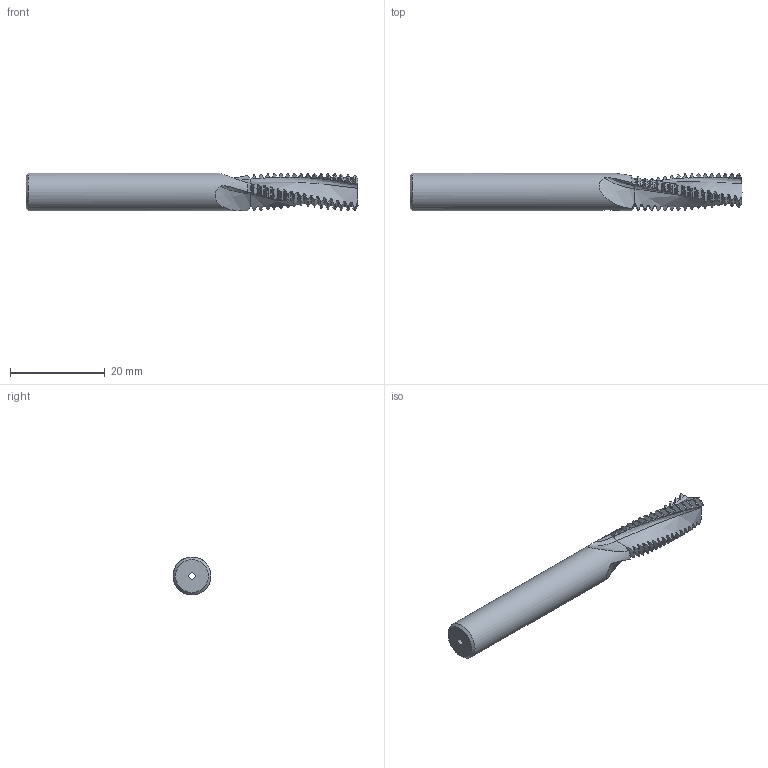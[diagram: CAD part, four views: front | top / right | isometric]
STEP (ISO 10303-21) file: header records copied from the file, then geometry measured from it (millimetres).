
FILE_DESCRIPTION(/* description */ (''),/* implementation_level */ '2;1');
FILE_NAME(/* name */ '00031705-STEP',/* time_stamp */ '2024-02-20T09:34:35+01:00',/* author */ (''),/* organization */ (''),/* preprocessor_version */ 'ST-DEVELOPER v16.5',/* originating_system */ 'HiCAD 2017 2201.0 Build 268',/* authorisation */ '');
FILE_SCHEMA (('AUTOMOTIVE_DESIGN { 1 0 10303 214 1 1 1 1 }'));
Products named in the file (2): Root; ROTATIONSTEIL_0
Assembly tree (1 placements, depth 2):
  Root
    ROTATIONSTEIL_0
Bounding box: 70 x 8 x 8 mm (x, y, z)
Volume: 2675.8 mm3; surface area: 2121.8 mm2
Topology: 1 solids, 1 shells, 365 faces, 1189 edges, 826 vertices
Faces by surface type: torus 147, cone 100, bspline 63, cylinder 53, plane 2
Full cylindrical faces by diameter (mm): 1.3 x1, 8 x1
Entity records: 41860 total; most frequent: CARTESIAN_POINT 22097, PRESENTATION_STYLE_ASSIGNMENT 2365, COLOUR_RGB 2365, DRAUGHTING_PRE_DEFINED_CURVE_FONT 2364, CURVE_STYLE 2364, OVER_RIDING_STYLED_ITEM 2364, ORIENTED_EDGE 2364, DIRECTION 1218
